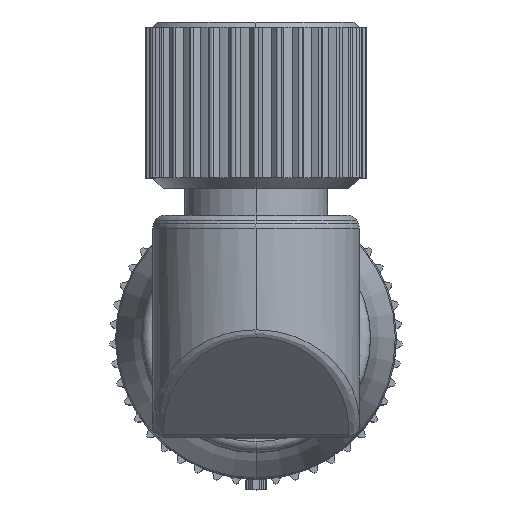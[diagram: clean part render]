
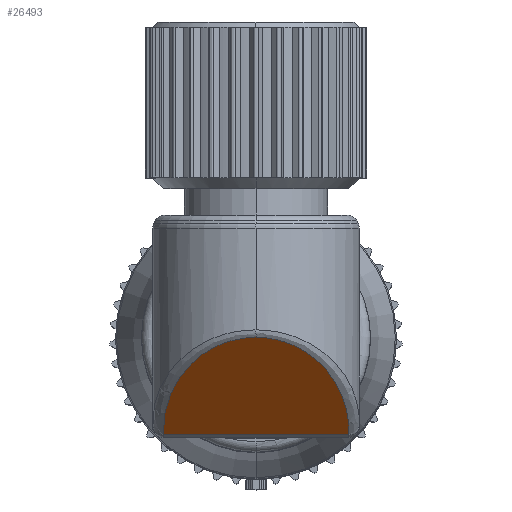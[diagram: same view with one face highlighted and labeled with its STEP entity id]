
A CAD part, top view. The second image highlights one B-rep face of the part: STEP entity #26493.
In plain terms, the highlighted planar face has unit normal (0, -0.707, 0.707) as drawn and (0.707, -0.707, 0) by its records, which use the part's own axes.
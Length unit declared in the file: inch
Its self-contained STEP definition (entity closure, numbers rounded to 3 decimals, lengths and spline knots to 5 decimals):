
#19192=DIRECTION('',(0.,0.,-1.));
#19193=VECTOR('',#19192,0.34961);
#19194=CARTESIAN_POINT('',(0.77814,-0.00586,
0.1748));
#19195=LINE('',#19194,#19193);
#19196=CARTESIAN_POINT('',(0.77814,-0.00586,
-0.17481));
#19197=CARTESIAN_POINT('',(0.77383,-0.01017,
-0.17501));
#19198=CARTESIAN_POINT('',(0.76493,-0.01907,
-0.17512));
#19199=CARTESIAN_POINT('',(0.75044,-0.03356,
-0.17413));
#19200=CARTESIAN_POINT('',(0.73559,-0.04841,
-0.17184));
#19201=CARTESIAN_POINT('',(0.72056,-0.06344,
-0.16815));
#19202=CARTESIAN_POINT('',(0.70575,-0.07825,
-0.16309));
#19203=CARTESIAN_POINT('',(0.69135,-0.09265,
-0.15667));
#19204=CARTESIAN_POINT('',(0.67743,-0.10657,
-0.14889));
#19205=CARTESIAN_POINT('',(0.66399,-0.12001,
-0.13967));
#19206=CARTESIAN_POINT('',(0.65124,-0.13276,
-0.12901));
#19207=CARTESIAN_POINT('',(0.64,-0.144,
-0.11764));
#19208=CARTESIAN_POINT('',(0.63074,-0.15326,
-0.10647));
#19209=CARTESIAN_POINT('',(0.62307,-0.16093,
-0.09557));
#19210=CARTESIAN_POINT('',(0.61664,-0.16736,
-0.08484));
#19211=CARTESIAN_POINT('',(0.61134,-0.17266,
-0.07443));
#19212=CARTESIAN_POINT('',(0.60712,-0.17688,
-0.06462));
#19213=CARTESIAN_POINT('',(0.60367,-0.18033,
-0.05514));
#19214=CARTESIAN_POINT('',(0.60067,-0.18333,
-0.04516));
#19215=CARTESIAN_POINT('',(0.59816,-0.18584,
-0.03441));
#19216=CARTESIAN_POINT('',(0.59635,-0.18765,
-0.02364));
#19217=CARTESIAN_POINT('',(0.59519,-0.18881,
-0.01266));
#19218=CARTESIAN_POINT('',(0.59486,-0.18914,
-0.00434));
#19219=CARTESIAN_POINT('',(0.59486,-0.18914,0.));
#19221=CARTESIAN_POINT('',(0.59486,-0.18914,0.));
#19222=CARTESIAN_POINT('',(0.59486,-0.18914,
0.00382));
#19223=CARTESIAN_POINT('',(0.59511,-0.18889,
0.01135));
#19224=CARTESIAN_POINT('',(0.59614,-0.18786,
0.02204));
#19225=CARTESIAN_POINT('',(0.59787,-0.18613,
0.03294));
#19226=CARTESIAN_POINT('',(0.60017,-0.18383,
0.04318));
#19227=CARTESIAN_POINT('',(0.60294,-0.18106,
0.05288));
#19228=CARTESIAN_POINT('',(0.60641,-0.17759,
0.06287));
#19229=CARTESIAN_POINT('',(0.61095,-0.17305,
0.07364));
#19230=CARTESIAN_POINT('',(0.61666,-0.16734,
0.08492));
#19231=CARTESIAN_POINT('',(0.6237,-0.1603,
0.09659));
#19232=CARTESIAN_POINT('',(0.63246,-0.15154,
0.10876));
#19233=CARTESIAN_POINT('',(0.64308,-0.14092,
0.12101));
#19234=CARTESIAN_POINT('',(0.65498,-0.12902,
0.13235));
#19235=CARTESIAN_POINT('',(0.66757,-0.11643,
0.14229));
#19236=CARTESIAN_POINT('',(0.68084,-0.10316,
0.15095));
#19237=CARTESIAN_POINT('',(0.69481,-0.08919,
0.15835));
#19238=CARTESIAN_POINT('',(0.70924,-0.07476,
0.16441));
#19239=CARTESIAN_POINT('',(0.72384,-0.06016,
0.16906));
#19240=CARTESIAN_POINT('',(0.73828,-0.04572,
0.17233));
#19241=CARTESIAN_POINT('',(0.75233,-0.03167,
0.1743));
#19242=CARTESIAN_POINT('',(0.76549,-0.01851,
0.1751));
#19243=CARTESIAN_POINT('',(0.77399,-0.01001,
0.175));
#19244=CARTESIAN_POINT('',(0.77814,-0.00586,
0.1748));
#22026=CARTESIAN_POINT('',(0.77814,-0.00586,
0.1748));
#22027=CARTESIAN_POINT('',(0.77814,-0.00586,
-0.17481));
#22028=VERTEX_POINT('',#22026);
#22029=VERTEX_POINT('',#22027);
#22034=VERTEX_POINT('',#19219);
#26482=CARTESIAN_POINT('',(0.784,0.,-0.5));
#26483=DIRECTION('',(-0.707,0.707,0.));
#26484=DIRECTION('',(-0.707,-0.707,0.));
#26485=AXIS2_PLACEMENT_3D('',#26482,#26483,#26484);
#26486=PLANE('',#26485);
#26488=ORIENTED_EDGE('',*,*,#26487,.T.);
#26489=ORIENTED_EDGE('',*,*,#26365,.T.);
#26490=ORIENTED_EDGE('',*,*,#26473,.T.);
#26491=EDGE_LOOP('',(#26488,#26489,#26490));
#26492=FACE_OUTER_BOUND('',#26491,.F.);
#26493=ADVANCED_FACE('',(#26492),#26486,.F.);
#19220=B_SPLINE_CURVE_WITH_KNOTS('',3,(#19196,#19197,#19198,#19199,#19200,
#19201,#19202,#19203,#19204,#19205,#19206,#19207,#19208,#19209,#19210,#19211,
#19212,#19213,#19214,#19215,#19216,#19217,#19218,#19219),.UNSPECIFIED.,.F.,.F.,(
4,1,1,1,1,1,1,1,1,1,1,1,1,1,1,1,1,1,1,1,1,4),(0.,0.04762,
0.09524,0.14286,0.19048,0.2381,
0.28571,0.33333,0.38095,0.42857,
0.47619,0.52381,0.57143,0.61905,
0.66667,0.71429,0.7619,0.80952,
0.85714,0.90476,0.95238,1.),.UNSPECIFIED.);
#19245=B_SPLINE_CURVE_WITH_KNOTS('',3,(#19221,#19222,#19223,#19224,#19225,
#19226,#19227,#19228,#19229,#19230,#19231,#19232,#19233,#19234,#19235,#19236,
#19237,#19238,#19239,#19240,#19241,#19242,#19243,#19244),.UNSPECIFIED.,.F.,.F.,(
4,1,1,1,1,1,1,1,1,1,1,1,1,1,1,1,1,1,1,1,1,4),(0.,0.04762,
0.09524,0.14286,0.19048,0.2381,
0.28571,0.33333,0.38095,0.42857,
0.47619,0.52381,0.57143,0.61905,
0.66667,0.71429,0.7619,0.80952,
0.85714,0.90476,0.95238,1.),.UNSPECIFIED.);
#26365=EDGE_CURVE('',#22029,#22034,#19220,.T.);
#26473=EDGE_CURVE('',#22034,#22028,#19245,.T.);
#26487=EDGE_CURVE('',#22028,#22029,#19195,.T.);
